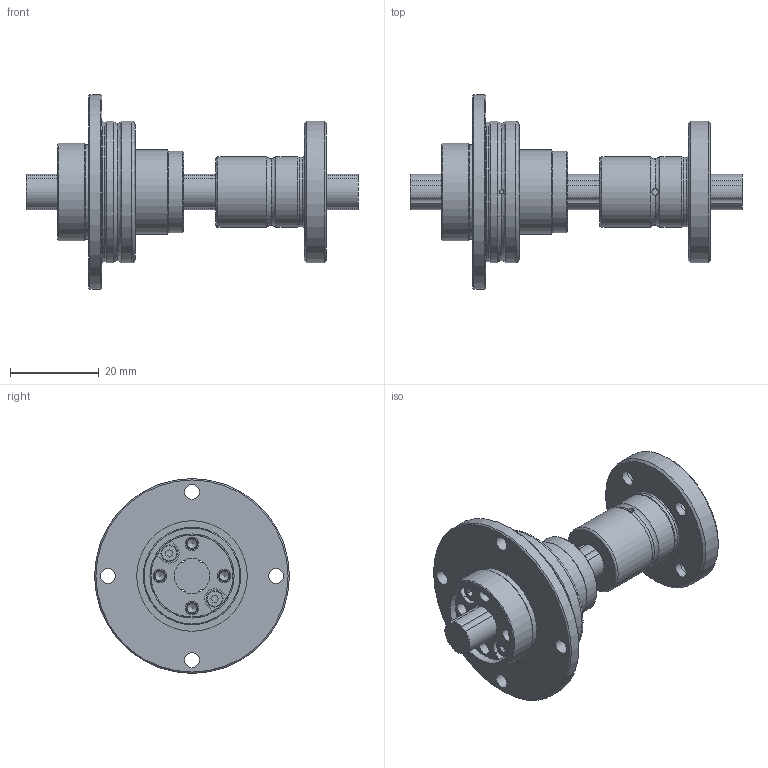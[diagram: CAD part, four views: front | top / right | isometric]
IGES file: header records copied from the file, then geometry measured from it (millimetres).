
Start section: Data from Parasolid IGES Translator 26.0.171, Copyright(c) 2006 Siemens PLM Software. All Rights Reserved.
Global section: file name: NS0812A+75L.igs; native system: By Siemens PLM Incorporated; preprocessor: XPlus GENERIC/IGES 26.0.171; author: Noname; organization: Noname; date: 20250611.084525; units: millimetre
Bounding box: 75 x 44 x 44 mm (x, y, z)
Surface area: 12801.6 mm2 (no closed solid volume)
Topology: 0 solids, 0 shells, 136 faces, 636 edges, 554 vertices
Faces by surface type: revolution 88, extrusion 48
